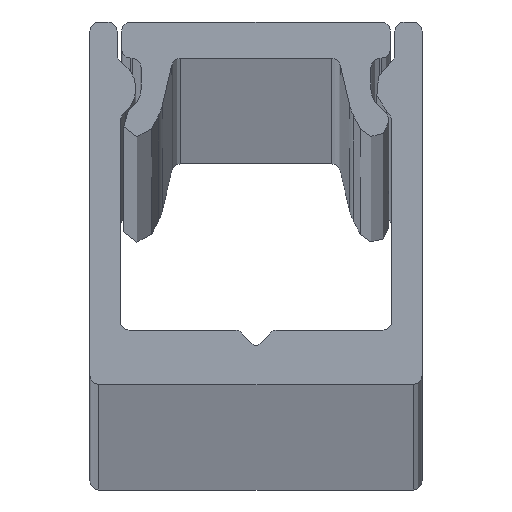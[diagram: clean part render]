
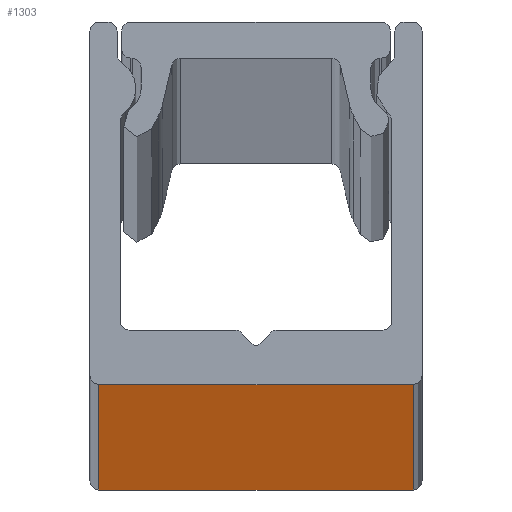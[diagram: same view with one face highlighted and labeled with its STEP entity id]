
A CAD part, top view. The second image highlights one B-rep face of the part: STEP entity #1303.
In plain terms, the highlighted planar face has unit normal (0, -1, 0).
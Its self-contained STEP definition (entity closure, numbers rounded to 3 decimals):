
#108 = VECTOR ( 'NONE', #1272, 1000. ) ;
#330 = CARTESIAN_POINT ( 'NONE',  ( -5.2, 0., 0. ) ) ;
#347 = CARTESIAN_POINT ( 'NONE',  ( -5.2, 0., -2000. ) ) ;
#361 = LINE ( 'NONE', #910, #108 ) ;
#375 = DIRECTION ( 'NONE',  ( 0., 0., -1. ) ) ;
#432 = VERTEX_POINT ( 'NONE', #1480 ) ;
#437 = ORIENTED_EDGE ( 'NONE', *, *, #2353, .F. ) ;
#458 = VECTOR ( 'NONE', #1823, 1000. ) ;
#558 = EDGE_CURVE ( 'NONE', #432, #1373, #1022, .T. ) ;
#708 = VERTEX_POINT ( 'NONE', #330 ) ;
#741 = EDGE_CURVE ( 'NONE', #1219, #708, #1243, .T. ) ;
#908 = DIRECTION ( 'NONE',  ( 1., 0., 0. ) ) ;
#910 = CARTESIAN_POINT ( 'NONE',  ( -5.2, 0., -2000. ) ) ;
#959 = ORIENTED_EDGE ( 'NONE', *, *, #741, .F. ) ;
#982 = CARTESIAN_POINT ( 'NONE',  ( 5.2, 0., -2000. ) ) ;
#1017 = ORIENTED_EDGE ( 'NONE', *, *, #558, .T. ) ;
#1022 = LINE ( 'NONE', #982, #1663 ) ;
#1034 = ORIENTED_EDGE ( 'NONE', *, *, #1807, .T. ) ;
#1188 = DIRECTION ( 'NONE',  ( 0., 0., 1. ) ) ;
#1219 = VERTEX_POINT ( 'NONE', #2375 ) ;
#1243 = LINE ( 'NONE', #347, #458 ) ;
#1272 = DIRECTION ( 'NONE',  ( 1., 0., 0. ) ) ;
#1303 = ADVANCED_FACE ( 'NONE', ( #2208 ), #1457, .T. ) ;
#1373 = VERTEX_POINT ( 'NONE', #1865 ) ;
#1404 = VECTOR ( 'NONE', #908, 1000. ) ;
#1457 = PLANE ( 'NONE',  #2247 ) ;
#1480 = CARTESIAN_POINT ( 'NONE',  ( 5.2, 0., -2000. ) ) ;
#1663 = VECTOR ( 'NONE', #1188, 1000. ) ;
#1694 = CARTESIAN_POINT ( 'NONE',  ( -5.2, 0., -2000. ) ) ;
#1755 = EDGE_LOOP ( 'NONE', ( #437, #959, #1034, #1017 ) ) ;
#1807 = EDGE_CURVE ( 'NONE', #1219, #432, #361, .T. ) ;
#1823 = DIRECTION ( 'NONE',  ( 0., 0., 1. ) ) ;
#1838 = LINE ( 'NONE', #2040, #1404 ) ;
#1865 = CARTESIAN_POINT ( 'NONE',  ( 5.2, 0., 0. ) ) ;
#2040 = CARTESIAN_POINT ( 'NONE',  ( -5.2, 0., 0. ) ) ;
#2208 = FACE_OUTER_BOUND ( 'NONE', #1755, .T. ) ;
#2222 = DIRECTION ( 'NONE',  ( 0., -1., 0. ) ) ;
#2247 = AXIS2_PLACEMENT_3D ( 'NONE', #1694, #2222, #375 ) ;
#2353 = EDGE_CURVE ( 'NONE', #708, #1373, #1838, .T. ) ;
#2375 = CARTESIAN_POINT ( 'NONE',  ( -5.2, 0., -2000. ) ) ;
